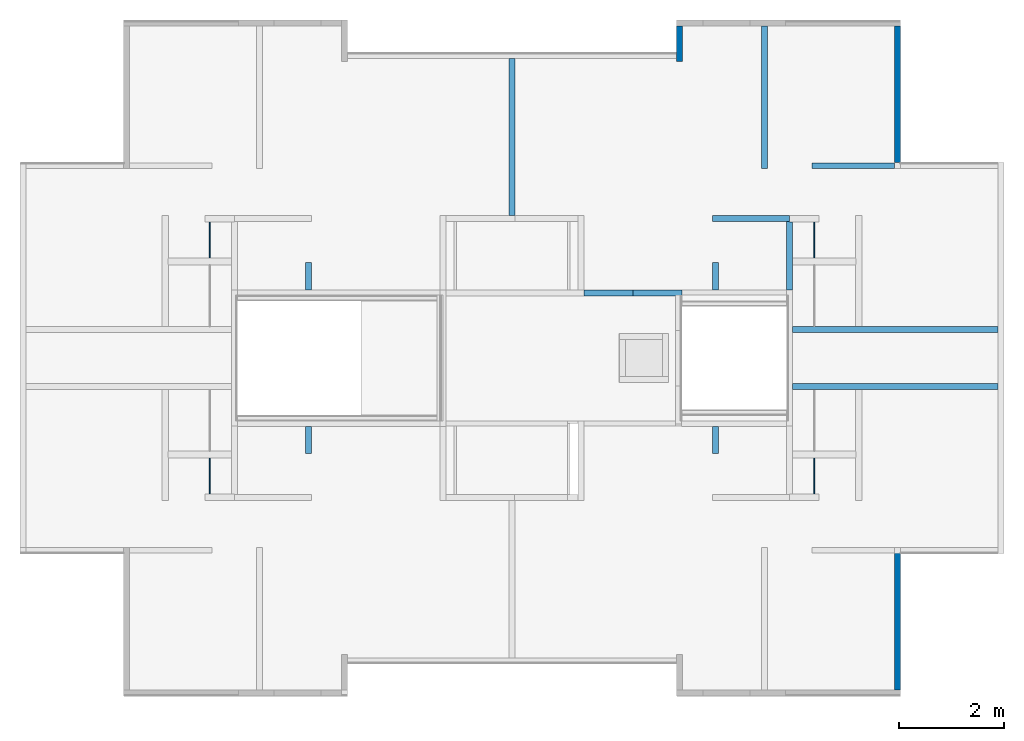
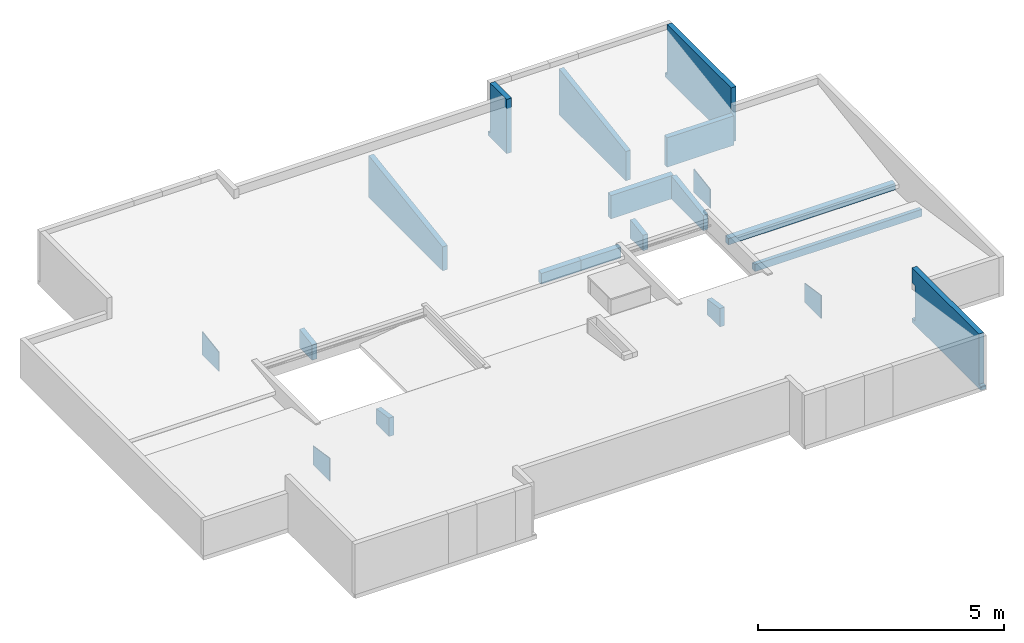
# One storey, part 6 of 9: 20 walls, 2 openings.
"""IFC4 building model written with IfcOpenShell, lengths in metres."""

from ifc_helpers import new_model, entity, si_unit, converted_unit, derived_unit, direction, frame, origin, place, context, subcontext, project, spatial, indexed_curve, outline, extrude, polygons, material, type_object, element, save


model = new_model("IFC4")

# Units and contexts
model_context = context("Model", 3, precision=1e-05, world=origin(), true_north=direction((6.123031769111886e-17, 1.0)))
body_context = subcontext(model_context, "Body", "Model", "MODEL_VIEW")
ifc_project = project(units=[si_unit("LENGTHUNIT", "METRE"), si_unit("AREAUNIT", "SQUARE_METRE"), si_unit("VOLUMEUNIT", "CUBIC_METRE"), converted_unit("PLANEANGLEUNIT", "DEGREE", entity("IfcRatioMeasure", 0.017453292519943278), si_unit("PLANEANGLEUNIT", "RADIAN"), dimensions=[0, 0, 0, 0, 0, 0, 0]), si_unit("MASSUNIT", "GRAM", prefix="KILO"), derived_unit("MASSDENSITYUNIT", [(si_unit("MASSUNIT", "GRAM", prefix="KILO"), 1), (si_unit("LENGTHUNIT", "METRE"), -3)]), derived_unit("IONCONCENTRATIONUNIT", [(si_unit("MASSUNIT", "GRAM", prefix="KILO"), 1), (si_unit("LENGTHUNIT", "METRE"), -3)]), derived_unit("MOMENTOFINERTIAUNIT", [(si_unit("LENGTHUNIT", "METRE"), 4)]), si_unit("TIMEUNIT", "SECOND"), si_unit("FREQUENCYUNIT", "HERTZ"), si_unit("THERMODYNAMICTEMPERATUREUNIT", "DEGREE_CELSIUS"), derived_unit("THERMALTRANSMITTANCEUNIT", [(si_unit("MASSUNIT", "GRAM", prefix="KILO"), 1), (si_unit("THERMODYNAMICTEMPERATUREUNIT", "KELVIN"), -1), (si_unit("TIMEUNIT", "SECOND"), -3)]), derived_unit("THERMALCONDUCTANCEUNIT", [(si_unit("MASSUNIT", "GRAM", prefix="KILO"), 1), (si_unit("THERMODYNAMICTEMPERATUREUNIT", "KELVIN"), -1), (si_unit("TIMEUNIT", "SECOND"), -3), (si_unit("LENGTHUNIT", "METRE"), 1)]), derived_unit("VOLUMETRICFLOWRATEUNIT", [(si_unit("LENGTHUNIT", "METRE"), 3), (si_unit("TIMEUNIT", "SECOND"), -1)]), derived_unit("MASSFLOWRATEUNIT", [(si_unit("MASSUNIT", "GRAM", prefix="KILO"), 1), (si_unit("TIMEUNIT", "SECOND"), -1)]), derived_unit("ROTATIONALFREQUENCYUNIT", [(si_unit("TIMEUNIT", "SECOND"), -1)]), si_unit("ELECTRICCURRENTUNIT", "AMPERE"), si_unit("ELECTRICVOLTAGEUNIT", "VOLT"), si_unit("POWERUNIT", "WATT"), si_unit("FORCEUNIT", "NEWTON", prefix="KILO"), si_unit("ILLUMINANCEUNIT", "LUX"), si_unit("LUMINOUSFLUXUNIT", "LUMEN"), si_unit("LUMINOUSINTENSITYUNIT", "CANDELA"), derived_unit("USERDEFINED", [(si_unit("MASSUNIT", "GRAM", prefix="KILO"), -1), (si_unit("LENGTHUNIT", "METRE"), -2), (si_unit("TIMEUNIT", "SECOND"), 3), (si_unit("LUMINOUSFLUXUNIT", "LUMEN"), 1)]), derived_unit("USERDEFINED", [(si_unit("MASSUNIT", "GRAM", prefix="KILO"), 1), (si_unit("TIMEUNIT", "SECOND"), -3), (si_unit("LENGTHUNIT", "METRE"), 3), (si_unit("ELECTRICCURRENTUNIT", "AMPERE"), -2)]), derived_unit("SOUNDPOWERUNIT", [(si_unit("MASSUNIT", "GRAM", prefix="KILO"), 1), (si_unit("TIMEUNIT", "SECOND"), -3), (si_unit("LENGTHUNIT", "METRE"), 2)]), derived_unit("SOUNDPRESSUREUNIT", [(si_unit("MASSUNIT", "GRAM", prefix="KILO"), 1), (si_unit("LENGTHUNIT", "METRE"), -1), (si_unit("TIMEUNIT", "SECOND"), -2)]), derived_unit("LINEARVELOCITYUNIT", [(si_unit("LENGTHUNIT", "METRE"), 1), (si_unit("TIMEUNIT", "SECOND"), -1)]), si_unit("PRESSUREUNIT", "PASCAL"), derived_unit("USERDEFINED", [(si_unit("MASSUNIT", "GRAM", prefix="KILO"), 1), (si_unit("LENGTHUNIT", "METRE"), -2), (si_unit("TIMEUNIT", "SECOND"), -2)]), derived_unit("LINEARFORCEUNIT", [(si_unit("MASSUNIT", "GRAM", prefix="KILO"), 1), (si_unit("TIMEUNIT", "SECOND"), -2)]), derived_unit("PLANARFORCEUNIT", [(si_unit("MASSUNIT", "GRAM", prefix="KILO"), 1), (si_unit("LENGTHUNIT", "METRE"), -1), (si_unit("TIMEUNIT", "SECOND"), -2)]), derived_unit("SPECIFICHEATCAPACITYUNIT", [(si_unit("THERMODYNAMICTEMPERATUREUNIT", "KELVIN"), -1), (si_unit("LENGTHUNIT", "METRE"), 2), (si_unit("TIMEUNIT", "SECOND"), -2)]), derived_unit("HEATINGVALUEUNIT", [(si_unit("LENGTHUNIT", "METRE"), 2), (si_unit("TIMEUNIT", "SECOND"), -2)]), derived_unit("VAPORPERMEABILITYUNIT", [(si_unit("LENGTHUNIT", "METRE"), -1), (si_unit("TIMEUNIT", "SECOND"), 1)]), derived_unit("DYNAMICVISCOSITYUNIT", [(si_unit("MASSUNIT", "GRAM", prefix="KILO"), 1), (si_unit("TIMEUNIT", "SECOND"), -1), (si_unit("LENGTHUNIT", "METRE"), -1)]), derived_unit("THERMALEXPANSIONCOEFFICIENTUNIT", [(si_unit("THERMODYNAMICTEMPERATUREUNIT", "KELVIN"), -1)]), derived_unit("MODULUSOFELASTICITYUNIT", [(si_unit("MASSUNIT", "GRAM", prefix="KILO"), 1), (si_unit("LENGTHUNIT", "METRE"), -1), (si_unit("TIMEUNIT", "SECOND"), -2)]), derived_unit("ISOTHERMALMOISTURECAPACITYUNIT", [(si_unit("LENGTHUNIT", "METRE"), 3), (si_unit("MASSUNIT", "GRAM", prefix="KILO"), -1)]), derived_unit("MOISTUREDIFFUSIVITYUNIT", [(si_unit("TIMEUNIT", "SECOND"), -1), (si_unit("LENGTHUNIT", "METRE"), 2)])], contexts=[model_context])

# Site, building, storey
site_placement = place(None, origin())
site = spatial("IfcSite", under=ifc_project, at=site_placement, Name="Default", CompositionType="ELEMENT")
building_placement = place(site_placement, origin())
building = spatial("IfcBuilding", under=site, at=building_placement, CompositionType="ELEMENT")
storey_placement = place(building_placement, frame((0.0, 0.0, 14.10000000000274)))
storey = spatial("IfcBuildingStorey", under=building, at=storey_placement, Name="Nivel 7", CompositionType="ELEMENT", Elevation=14.10000000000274)

# Wall
ifc_material_1 = material(Name="Concreto (Aire)", Category="Materials")
wall_type_1 = type_object("IfcWallType", Name="Basic Wall:B2010 - 0.12m - Muro interior en concreto", PredefinedType="STANDARD")
wall_1_placement = place(storey_placement, frame((9.322500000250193, -0.7100000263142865, -0.10000000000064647), z_axis=(0.0, 0.0, 1.0), x_axis=(0.0, -1.0, 0.0)))
element("IfcWall", 1, at=wall_1_placement, inside=storey, type_object=wall_type_1, material=ifc_material_1, Name="Basic Wall:B2010 - 0.12m - Muro interior en concreto", ObjectType="Basic Wall:B2010 - 0.12m - Muro interior en concreto", PredefinedType="NOTDEFINED", context=body_context, shape_type="Tessellation", body=[
    polygons([(3.383959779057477e-15, -0.05999999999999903, 0.0), (3.0000000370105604, -0.05999999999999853, 0.0), (3.0000000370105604, -0.05999999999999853, 0.5934499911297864), (1.0828671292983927e-15, -0.05999999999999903, 1.043449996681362), (3.383959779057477e-15, 0.06000000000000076, 0.0), (3.383959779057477e-15, 0.06000000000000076, 1.043449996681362), (3.00000003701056, 0.06000000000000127, 0.5934499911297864), (3.00000003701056, 0.06000000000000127, 0.0)], [[[1, 2, 3, 4]], [[5, 6, 7, 8]], [[2, 1, 5, 8]], [[3, 2, 8, 7]], [[1, 4, 6, 5]], [[4, 3, 7, 6]]], closed=True),
])

# Wall, opening
ifc_material_2 = material(Name="Ladrillo claro (Aire)", Category="Materials")
wall_type_2 = type_object("IfcWallType", Name="Basic Wall:B2010 - 0.115m - Muro exterior en mampostería - Ladrillo", PredefinedType="STANDARD")
wall_2_placement = place(storey_placement, frame((16.67000000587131, -2.695000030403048, -0.10000000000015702), z_axis=(0.0, 0.0, 1.0), x_axis=(0.0, 1.0, 0.0)))
wall_2 = element("IfcWall", 2, at=wall_2_placement, inside=storey, type_object=wall_type_2, material=ifc_material_2, Name="Basic Wall:B2010 - 0.115m - Muro exterior en mampostería - Ladrillo", ObjectType="Basic Wall:B2010 - 0.115m - Muro exterior en mampostería - Ladrillo", PredefinedType="NOTDEFINED", context=body_context, shape_type="Tessellation", body=[
    polygons([(0.0, -0.057500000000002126, -2.1657342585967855e-15), (2.685000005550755, -0.057499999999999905, -2.1657342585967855e-15), (2.685000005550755, -0.057499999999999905, 0.0999999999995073), (2.600000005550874, -0.057499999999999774, 0.0999999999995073), (2.6000000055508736, -0.057499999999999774, 1.3467999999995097), (0.0, -0.057500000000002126, 1.3467999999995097), (0.0, 0.057500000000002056, -2.1657342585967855e-15), (0.0, 0.05749999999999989, 0.09999999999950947), (0.0, 0.05749999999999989, 0.9757999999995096), (0.0, 0.057500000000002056, 1.3467999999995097), (2.6000000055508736, 0.05750000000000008, 1.3467999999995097), (2.6000000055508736, 0.05750000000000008, 0.0999999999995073), (2.685000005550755, 0.05749999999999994, 0.0999999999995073), (2.685000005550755, 0.05749999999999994, -2.1657342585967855e-15)], [[[1, 2, 3, 4, 5, 6]], [[7, 8, 9, 10, 11, 12, 13, 14]], [[1, 6, 10, 9, 8, 7]], [[2, 1, 7, 14]], [[5, 4, 12, 11]], [[6, 5, 11, 10]], [[3, 2, 14, 13]], [[4, 3, 13, 12]]], closed=True),
])
opening_1_placement = place(wall_2_placement, origin())
element("IfcOpeningElement", 3, at=opening_1_placement, cuts=wall_2, Name="Basic Wall:B2010 - 0.115m - Muro exterior en mampostería - Ladrillo", PredefinedType="OPENING", context=body_context, shape_type="SweptSolid", body=[
    extrude(outline(indexed_curve([(-0.6234000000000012, -0.042499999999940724), (0.6233999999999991, -0.04249999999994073), (0.6233999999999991, 0.04249999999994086), (-0.6234000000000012, 0.04249999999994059), (-0.6234000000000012, -0.042499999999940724)], self_intersect=False)), frame((2.642500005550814, 0.05750000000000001, 0.7233999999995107), z_axis=(0.0, -1.0, 0.0), x_axis=(0.0, 0.0, 1.0)), (0.0, 0.0, 1.0), 0.115),
])

# Wall
wall_3_placement = place(storey_placement, frame((16.670000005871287, -10.040000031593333, -0.10000000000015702), z_axis=(0.0, 0.0, 1.0), x_axis=(0.0, -1.0, 0.0)))
element("IfcWall", 4, at=wall_3_placement, inside=storey, type_object=wall_type_2, material=ifc_material_2, Name="Basic Wall:B2010 - 0.115m - Muro exterior en mampostería - Ladrillo", ObjectType="Basic Wall:B2010 - 0.115m - Muro exterior en mampostería - Ladrillo", PredefinedType="NOTDEFINED", context=body_context, shape_type="Tessellation", body=[
    polygons([(0.0, -0.05749999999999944, -2.1657342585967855e-15), (0.10000000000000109, -0.057499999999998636, 0.0), (2.799999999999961, -0.057499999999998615, -2.1657342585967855e-15), (2.799999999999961, -0.057499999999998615, 0.0999999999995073), (2.7149999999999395, -0.057499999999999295, 0.0999999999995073), (2.7149999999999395, -0.057499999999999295, 1.3467999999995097), (0.0, -0.05749999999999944, 1.3467999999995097), (0.0, -0.057499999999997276, 0.9757999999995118), (0.11499999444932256, -0.05749999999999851, 0.9757999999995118), (0.11499999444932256, -0.05749999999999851, 0.09999999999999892), (0.0, -0.05749999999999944, 0.09999999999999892), (0.0, 0.057500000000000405, -2.1657342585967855e-15), (0.0, 0.057500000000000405, 0.09999999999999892), (0.08499999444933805, 0.05750000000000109, 0.09999999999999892), (0.11499999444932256, 0.057500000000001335, 0.09999999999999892), (0.11499999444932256, 0.057500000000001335, 0.9757999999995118), (0.0, 0.05750000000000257, 0.9757999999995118), (0.0, 0.057500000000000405, 1.3467999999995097), (2.7149999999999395, 0.05750000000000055, 1.3467999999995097), (2.7149999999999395, 0.05750000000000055, 0.0999999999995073), (2.799999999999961, 0.05750000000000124, 0.0999999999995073), (2.799999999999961, 0.05750000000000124, -2.1657342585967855e-15), (0.11499999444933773, 0.057500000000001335, 0.0), (0.08499999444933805, 0.05750000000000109, 0.0)], [[[1, 2, 3, 4, 5, 6, 7, 8, 9, 10, 11]], [[12, 13, 14, 15, 16, 17, 18, 19, 20, 21, 22, 23, 24]], [[1, 11, 13, 12]], [[10, 9, 16, 15]], [[8, 7, 18, 17]], [[3, 2, 1, 12, 24, 23, 22]], [[6, 5, 20, 19]], [[7, 6, 19, 18]], [[10, 15, 14, 13, 11]], [[8, 17, 16, 9]], [[4, 3, 22, 21]], [[5, 4, 21, 20]]], closed=True),
])

# Wall, opening
wall_4_placement = place(storey_placement, frame((12.520000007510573, -0.010000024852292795, -0.09999999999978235), z_axis=(0.0, 0.0, 1.0), x_axis=(0.0, -1.0, 0.0)))
wall_4 = element("IfcWall", 5, at=wall_4_placement, inside=storey, type_object=wall_type_2, material=ifc_material_2, Name="Basic Wall:B2010 - 0.115m - Muro exterior en mampostería - Ladrillo", ObjectType="Basic Wall:B2010 - 0.115m - Muro exterior en mampostería - Ladrillo", PredefinedType="NOTDEFINED", context=body_context, shape_type="Tessellation", body=[
    polygons([(0.08500000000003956, -0.05750000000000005, 0.09999999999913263), (1.268984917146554e-17, -0.05749999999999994, 0.09999999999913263), (1.903477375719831e-17, -0.05749999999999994, 0.0), (0.5850000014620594, -0.05750000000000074, 0.0), (0.6150000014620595, -0.05750000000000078, 0.0), (0.7599180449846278, -0.057500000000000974, 0.0), (0.7599180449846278, -0.057500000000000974, 1.3467999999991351), (0.08500000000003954, -0.05750000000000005, 1.3467999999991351), (0.08500000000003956, 0.057499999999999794, 0.09999999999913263), (0.08500000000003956, 0.057499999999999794, 1.3467999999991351), (0.7599180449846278, 0.05749999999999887, 1.3467999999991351), (0.7599180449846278, 0.05749999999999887, 0.0), (6.34492458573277e-18, 0.057499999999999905, 0.0), (6.34492458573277e-18, 0.057499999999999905, 0.09999999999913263)], [[[1, 2, 3, 4, 5, 6, 7, 8]], [[9, 10, 11, 12, 13, 14]], [[6, 5, 4, 3, 13, 12]], [[7, 6, 12, 11]], [[8, 7, 11, 10]], [[1, 8, 10, 9]], [[2, 1, 9, 14]], [[3, 2, 14, 13]]], closed=True),
])
opening_2_placement = place(wall_4_placement, origin())
element("IfcOpeningElement", 6, at=opening_2_placement, cuts=wall_4, Name="Basic Wall:B2010 - 0.115m - Muro exterior en mampostería - Ladrillo", PredefinedType="OPENING", context=body_context, shape_type="SweptSolid", body=[
    extrude(outline(indexed_curve([(-0.04250000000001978, -0.6233999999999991), (0.04250000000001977, -0.6233999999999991), (0.04250000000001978, 0.6234000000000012), (-0.04250000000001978, 0.6234000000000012), (-0.04250000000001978, -0.6233999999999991)], self_intersect=False)), frame((0.042500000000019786, 0.05749999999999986, 0.7233999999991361), z_axis=(0.0, -1.0, 0.0), x_axis=(-1.0, 0.0, 0.0)), (0.0, 0.0, 1.0), 0.115),
])

# Walls
ifc_material_3 = material(Name="LADRILLO CLARO", Category="Materials")
wall_type_3 = type_object("IfcWallType", Name="Basic Wall:B2010 - 0.115m - ME mampostería no estructural - Ladrillo", PredefinedType="STANDARD")
wall_5_placement = place(storey_placement, frame((13.200000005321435, -8.24500002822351, -0.10000000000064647), z_axis=(0.0, 0.0, 1.0), x_axis=(0.0, 1.0, 0.0)))
element("IfcWall", 7, at=wall_5_placement, inside=storey, type_object=wall_type_3, material=ifc_material_3, Name="Basic Wall:B2010 - 0.115m - ME mampostería no estructural - Ladrillo", ObjectType="Basic Wall:B2010 - 0.115m - ME mampostería no estructural - Ladrillo", PredefinedType="NOTDEFINED", context=body_context, shape_type="Tessellation", body=[
    polygons([(0.0, -0.05749999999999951, 0.0), (0.5175000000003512, -0.057499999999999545, 0.0), (0.5195000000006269, -0.05749999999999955, 0.0), (0.5195000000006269, -0.05749999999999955, 0.381274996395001), (0.5175000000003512, -0.057499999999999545, 0.38157499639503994), (0.0, -0.05749999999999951, 0.45919999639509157), (0.0, 0.057500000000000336, 0.0), (0.0, 0.057500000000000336, 0.45919999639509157), (0.519500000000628, 0.057500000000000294, 0.381274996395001), (0.519500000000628, 0.057500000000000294, 0.0)], [[[1, 2, 3, 4, 5, 6]], [[7, 8, 9, 10]], [[3, 2, 1, 7, 10]], [[1, 6, 8, 7]], [[6, 5, 4, 9, 8]], [[4, 3, 10, 9]]], closed=True),
])
wall_type_4 = type_object("IfcWallType", Name="Basic Wall:B2010 - 0.115m - Muro interior en mampostería - Ladrillo", PredefinedType="STANDARD")
wall_6_placement = place(storey_placement, frame((14.135000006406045, -0.09500002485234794, -0.10000000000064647), z_axis=(0.0, 0.0, 1.0), x_axis=(0.0, -1.0, 0.0)))
element("IfcWall", 8, at=wall_6_placement, inside=storey, type_object=wall_type_4, material=ifc_material_2, Name="Basic Wall:B2010 - 0.115m - Muro interior en mampostería - Ladrillo", ObjectType="Basic Wall:B2010 - 0.115m - Muro interior en mampostería - Ladrillo", PredefinedType="NOTDEFINED", context=body_context, shape_type="Tessellation", body=[
    polygons([(0.0, -0.05749999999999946, 0.0), (2.7150000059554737, -0.05749999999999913, 0.0), (2.7150000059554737, -0.05749999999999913, 0.7284499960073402), (1.0417520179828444e-13, -0.05749999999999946, 1.135699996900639), (3.891553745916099e-16, 0.05750000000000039, 0.0), (5.414335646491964e-16, 0.05750000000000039, 1.135699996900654), (2.7150000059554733, 0.05750000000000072, 0.7284499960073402), (2.7150000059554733, 0.05750000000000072, 0.0)], [[[1, 2, 3, 4]], [[5, 6, 7, 8]], [[2, 1, 5, 8]], [[3, 2, 8, 7]], [[4, 3, 7, 6]], [[1, 4, 6, 5]]], closed=True),
])
wall_7_placement = place(storey_placement, frame((14.61500000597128, -3.7675000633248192, -0.10000000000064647), z_axis=(0.0, 0.0, 1.0), x_axis=(-1.0, 0.0, 0.0)))
element("IfcWall", 9, at=wall_7_placement, inside=storey, type_object=wall_type_4, material=ifc_material_2, Name="Basic Wall:B2010 - 0.115m - Muro interior en mampostería - Ladrillo", ObjectType="Basic Wall:B2010 - 0.115m - Muro interior en mampostería - Ladrillo", PredefinedType="NOTDEFINED", context=body_context, shape_type="Tessellation", body=[
    polygons([(3.921850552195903e-16, -0.057499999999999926, 0.0), (1.4724999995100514, -0.057499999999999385, 0.0), (1.4724999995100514, -0.057499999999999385, 0.5934499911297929), (3.921850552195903e-16, -0.057499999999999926, 0.5934499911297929), (1.5501947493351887e-18, 0.057499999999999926, 0.0), (1.5501947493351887e-18, 0.057499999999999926, 0.5761999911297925), (0.057499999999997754, 0.05750000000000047, 0.5761999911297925), (1.4724999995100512, 0.05750000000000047, 0.5761999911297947), (1.4724999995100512, 0.05750000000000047, 0.0), (0.057499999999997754, 0.05750000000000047, 0.0)], [[[1, 2, 3, 4]], [[5, 6, 7, 8, 9, 10]], [[2, 1, 5, 10, 9]], [[3, 2, 9, 8]], [[1, 4, 6, 5]], [[4, 3, 8, 7, 6]]], closed=True),
])
wall_type_5 = type_object("IfcWallType", Name="Basic Wall:B2010 - 0.10m - Muro interior en concreto", PredefinedType="STANDARD")
wall_8_placement = place(storey_placement, frame((16.612500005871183, -2.760000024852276, -0.10000000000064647), z_axis=(0.0, 0.0, 1.0), x_axis=(-1.0, 0.0, 0.0)))
element("IfcWall", 10, at=wall_8_placement, inside=storey, type_object=wall_type_5, material=ifc_material_1, Name="Basic Wall:B2010 - 0.10m - Muro interior en concreto", ObjectType="Basic Wall:B2010 - 0.10m - Muro interior en concreto", PredefinedType="NOTDEFINED", context=body_context, shape_type="Tessellation", body=[
    polygons([(-2.517492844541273e-16, -0.05, 0.0), (1.569999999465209, -0.05, 0.0), (1.569999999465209, -0.05, 0.7434499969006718), (7.495681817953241e-09, -0.05, 0.7434499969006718), (5.862664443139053e-17, 0.05, 0.0), (5.862664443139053e-17, 0.05, 0.728449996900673), (1.5699999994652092, 0.05, 0.7284499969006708), (1.5699999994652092, 0.05, 0.0)], [[[1, 2, 3, 4]], [[5, 6, 7, 8]], [[2, 1, 5, 8]], [[3, 2, 8, 7]], [[1, 4, 6, 5]], [[4, 3, 7, 6]]], closed=True),
])
wall_type_6 = type_object("IfcWallType", Name="Basic Wall:B2010 - 0.115m - MI mampostería no estructural - Ladrillo", PredefinedType="STANDARD")
wall_9_placement = place(storey_placement, frame((5.444999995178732, -4.605000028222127, -0.10000000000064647), z_axis=(0.0, 0.0, 1.0), x_axis=(0.0, -1.0, 0.0)))
element("IfcWall", 11, at=wall_9_placement, inside=storey, type_object=wall_type_6, material=ifc_material_3, Name="Basic Wall:B2010 - 0.115m - MI mampostería no estructural - Ladrillo", ObjectType="Basic Wall:B2010 - 0.115m - MI mampostería no estructural - Ladrillo", PredefinedType="NOTDEFINED", context=body_context, shape_type="Tessellation", body=[
    polygons([(0.0, -0.057500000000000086, 0.0), (0.5195000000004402, -0.05749999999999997, 0.0), (0.5195000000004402, -0.05749999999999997, 0.3812749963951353), (0.0, -0.057500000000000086, 0.4591999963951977), (-5.414335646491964e-16, 0.05749999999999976, 0.0), (-5.414335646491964e-16, 0.05749999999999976, 0.4591999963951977), (0.5195000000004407, 0.05749999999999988, 0.3812749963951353), (0.5195000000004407, 0.05749999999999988, 0.0)], [[[1, 2, 3, 4]], [[5, 6, 7, 8]], [[2, 1, 5, 8]], [[1, 4, 6, 5]], [[3, 2, 8, 7]], [[4, 3, 7, 6]]], closed=True),
])
wall_10_placement = place(storey_placement, frame((14.615000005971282, -3.825000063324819, -0.10000000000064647), z_axis=(0.0, 0.0, 1.0), x_axis=(0.0, -1.0, 0.0)))
element("IfcWall", 12, at=wall_10_placement, inside=storey, type_object=wall_type_6, material=ifc_material_3, Name="Basic Wall:B2010 - 0.115m - MI mampostería no estructural - Ladrillo", ObjectType="Basic Wall:B2010 - 0.115m - MI mampostería no estructural - Ladrillo", PredefinedType="NOTDEFINED", context=body_context, shape_type="Tessellation", body=[
    polygons([(-5.414335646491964e-16, -0.057500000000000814, 0.0), (1.2999999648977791, -0.05750000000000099, 0.0), (1.2999999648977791, -0.05750000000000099, 0.3811999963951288), (-5.414335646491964e-16, -0.057500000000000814, 0.5761999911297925), (0.01000000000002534, 0.05749999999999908, 0.0), (0.01000000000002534, 0.05749999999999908, 0.5746999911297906), (0.6900000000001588, 0.05749999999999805, 0.47269999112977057), (0.8250000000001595, 0.05749999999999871, 0.45244999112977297), (1.2999999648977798, 0.05749999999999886, 0.3811999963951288), (1.2999999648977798, 0.05749999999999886, 0.0), (0.8250000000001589, 0.05749999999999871, 0.0), (0.6900000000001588, 0.05749999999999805, 0.0), (0.0, -3.058092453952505e-15, 0.0), (0.01000000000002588, -8.437327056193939e-16, 0.0), (0.0, -3.058092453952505e-15, 0.5761999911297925), (0.01000000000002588, -3.0094669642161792e-15, 0.5746999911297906)], [[[1, 2, 3, 4]], [[5, 6, 7, 8, 9, 10, 11, 12]], [[2, 1, 13, 14, 5, 12, 11, 10]], [[3, 2, 10, 9]], [[1, 4, 15, 13]], [[15, 16, 14, 13]], [[16, 6, 5, 14]], [[4, 3, 9, 8, 7, 6, 16, 15]]], closed=True),
])
wall_11_placement = place(storey_placement, frame((13.200000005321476, -4.605000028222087, -0.10000000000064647), z_axis=(0.0, 0.0, 1.0), x_axis=(0.0, -1.0, 0.0)))
element("IfcWall", 13, at=wall_11_placement, inside=storey, type_object=wall_type_6, material=ifc_material_3, Name="Basic Wall:B2010 - 0.115m - MI mampostería no estructural - Ladrillo", ObjectType="Basic Wall:B2010 - 0.115m - MI mampostería no estructural - Ladrillo", PredefinedType="NOTDEFINED", context=body_context, shape_type="Tessellation", body=[
    polygons([(5.414335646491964e-16, -0.057499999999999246, 0.0), (0.5195000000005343, -0.05749999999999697, 0.0), (0.5195000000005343, -0.05749999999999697, 0.38127499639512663), (5.414335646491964e-16, -0.057499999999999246, 0.4591999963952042), (5.414335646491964e-16, 0.0575000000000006, 0.0), (5.414335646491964e-16, 0.0575000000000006, 0.4591999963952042), (0.5195000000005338, 0.057499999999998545, 0.38127499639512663), (0.5195000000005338, 0.057499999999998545, 0.0)], [[[1, 2, 3, 4]], [[5, 6, 7, 8]], [[2, 1, 5, 8]], [[1, 4, 6, 5]], [[3, 2, 8, 7]], [[4, 3, 7, 6]]], closed=True),
])
wall_12_placement = place(storey_placement, frame((5.444999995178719, -8.245000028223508, -0.10000000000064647), z_axis=(0.0, 0.0, 1.0), x_axis=(0.0, 1.0, 0.0)))
element("IfcWall", 14, at=wall_12_placement, inside=storey, type_object=wall_type_6, material=ifc_material_3, Name="Basic Wall:B2010 - 0.115m - MI mampostería no estructural - Ladrillo", ObjectType="Basic Wall:B2010 - 0.115m - MI mampostería no estructural - Ladrillo", PredefinedType="NOTDEFINED", context=body_context, shape_type="Tessellation", body=[
    polygons([(1.0828671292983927e-15, -0.05750000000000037, 0.0), (0.519000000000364, -0.05750000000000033, 0.0), (0.519000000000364, -0.05750000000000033, 0.38134999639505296), (1.0828671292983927e-15, -0.05750000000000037, 0.4591999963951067), (0.0, 0.057499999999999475, 0.0), (0.0, 0.057499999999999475, 0.4591999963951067), (0.519000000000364, 0.05749999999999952, 0.38134999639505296), (0.519000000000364, 0.05749999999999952, 0.0)], [[[1, 2, 3, 4]], [[5, 6, 7, 8]], [[2, 1, 5, 8]], [[1, 4, 6, 5]], [[3, 2, 8, 7]], [[4, 3, 7, 6]]], closed=True),
])
ifc_material_4 = material(Name="Plasterboard", Category="Materials")
wall_type_7 = type_object("IfcWallType", Name="Basic Wall:C1070 - 0.02m - Plafón - Drywall", PredefinedType="STANDARD")
wall_13_placement = place(storey_placement, frame((3.562499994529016, -4.515000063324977, -0.10000000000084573), z_axis=(0.0, 0.0, 1.0), x_axis=(0.0, 1.0, 0.0)))
element("IfcWall", 15, at=wall_13_placement, inside=storey, type_object=wall_type_7, material=ifc_material_4, Name="Basic Wall:C1070 - 0.02m - Plafón - Drywall", ObjectType="Basic Wall:C1070 - 0.02m - Plafón - Drywall", PredefinedType="NOTDEFINED", context=body_context, shape_type="Tessellation", body=[
    polygons([(0.0, -0.009999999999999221, 0.0), (0.6800000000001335, -0.009999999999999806, 0.0), (0.6800000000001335, -0.009999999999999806, 0.5746999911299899), (0.0, -0.009999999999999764, 0.47269999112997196), (0.0, 0.010000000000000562, 0.0), (0.0, 0.010000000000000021, 0.47269999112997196), (0.680000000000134, 0.00999999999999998, 0.5746999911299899), (0.6800000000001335, 0.00999999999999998, 0.0)], [[[1, 2, 3, 4]], [[5, 6, 7, 8]], [[2, 1, 5, 8]], [[3, 2, 8, 7]], [[4, 3, 7, 6]], [[1, 4, 6, 5]]], closed=True),
])
wall_14_placement = place(storey_placement, frame((15.082500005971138, -4.515000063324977, -0.10000000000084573), z_axis=(0.0, 0.0, 1.0), x_axis=(0.0, 1.0, 0.0)))
element("IfcWall", 16, at=wall_14_placement, inside=storey, type_object=wall_type_7, material=ifc_material_4, Name="Basic Wall:C1070 - 0.02m - Plafón - Drywall", ObjectType="Basic Wall:C1070 - 0.02m - Plafón - Drywall", PredefinedType="NOTDEFINED", context=body_context, shape_type="Tessellation", body=[
    polygons([(5.414335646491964e-16, -0.00999999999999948, 0.0), (0.6800000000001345, -0.01000000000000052, 0.0), (0.680000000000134, -0.01000000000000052, 0.5746999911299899), (5.414335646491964e-16, -0.00999999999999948, 0.47269999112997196), (5.414335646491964e-16, 0.009999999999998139, 0.0), (5.414335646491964e-16, 0.009999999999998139, 0.4726999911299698), (0.680000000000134, 0.009999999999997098, 0.5746999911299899), (0.680000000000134, 0.009999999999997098, 0.0)], [[[1, 2, 3, 4]], [[5, 6, 7, 8]], [[2, 1, 5, 8]], [[3, 2, 8, 7]], [[1, 4, 6, 5]], [[4, 3, 7, 6]]], closed=True),
])
wall_15_placement = place(storey_placement, frame((3.562499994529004, -8.334999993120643, -0.10000000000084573), z_axis=(0.0, 0.0, 1.0), x_axis=(0.0, -1.0, 0.0)))
element("IfcWall", 17, at=wall_15_placement, inside=storey, type_object=wall_type_7, material=ifc_material_4, Name="Basic Wall:C1070 - 0.02m - Plafón - Drywall", ObjectType="Basic Wall:C1070 - 0.02m - Plafón - Drywall", PredefinedType="NOTDEFINED", context=body_context, shape_type="Tessellation", body=[
    polygons([(0.0, -0.00999999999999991, 0.0), (0.6800000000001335, -0.009999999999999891, 0.0), (0.6800000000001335, -0.009999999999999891, 0.5746999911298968), (0.0, -0.00999999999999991, 0.4726999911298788), (0.0, 0.009999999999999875, 0.0), (0.0, 0.009999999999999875, 0.4726999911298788), (0.6800000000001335, 0.009999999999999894, 0.5746999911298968), (0.6800000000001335, 0.009999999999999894, 0.0)], [[[1, 2, 3, 4]], [[5, 6, 7, 8]], [[2, 1, 5, 8]], [[3, 2, 8, 7]], [[4, 3, 7, 6]], [[1, 4, 6, 5]]], closed=True),
])
wall_16_placement = place(storey_placement, frame((15.08250000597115, -8.334999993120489, -0.10000000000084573), z_axis=(0.0, 0.0, 1.0), x_axis=(0.0, -1.0, 0.0)))
element("IfcWall", 18, at=wall_16_placement, inside=storey, type_object=wall_type_7, material=ifc_material_4, Name="Basic Wall:C1070 - 0.02m - Plafón - Drywall", ObjectType="Basic Wall:C1070 - 0.02m - Plafón - Drywall", PredefinedType="NOTDEFINED", context=body_context, shape_type="Tessellation", body=[
    polygons([(1.0828671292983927e-15, -0.010000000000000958, 0.0), (0.6800000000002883, -0.010000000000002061, 0.0), (0.6800000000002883, -0.010000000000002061, 0.574699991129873), (1.0828671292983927e-15, -0.010000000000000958, 0.47269999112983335), (1.0828671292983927e-15, 0.010000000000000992, 0.0), (1.0828671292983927e-15, 0.010000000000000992, 0.47269999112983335), (0.6800000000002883, 0.009999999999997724, 0.574699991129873), (0.6800000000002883, 0.009999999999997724, 0.0)], [[[1, 2, 3, 4]], [[5, 6, 7, 8]], [[2, 1, 5, 8]], [[3, 2, 8, 7]], [[1, 4, 6, 5]], [[4, 3, 7, 6]]], closed=True),
])
ifc_material_5 = material(Name="Concreto - Fundido in situ", Category="Materials")
wall_type_8 = type_object("IfcWallType", Name="Basic Wall:B2010 - 0.115m - MI No estructural- Concreto", PredefinedType="STANDARD")
wall_17_placement = place(storey_placement, frame((14.672500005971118, -5.882500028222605, 0.0)))
element("IfcWall", 19, at=wall_17_placement, inside=storey, type_object=wall_type_8, material=ifc_material_5, Name="Basic Wall:B2010 - 0.115m - MI No estructural- Concreto", ObjectType="Basic Wall:B2010 - 0.115m - MI No estructural- Concreto", PredefinedType="NOTDEFINED", context=body_context, shape_type="Tessellation", body=[
    polygons([(0.0, -0.057499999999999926, -2.1657342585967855e-15), (3.9149999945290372, -0.057499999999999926, -2.1657342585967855e-15), (3.9149999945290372, -0.057499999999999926, 0.1589499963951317), (0.0, -0.057499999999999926, 0.1589499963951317), (0.0, 0.057499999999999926, -2.1657342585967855e-15), (0.0, 0.057499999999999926, 0.1761999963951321), (3.9149999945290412, 0.057499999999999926, 0.1761999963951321), (3.9149999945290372, 0.057499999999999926, -2.1657342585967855e-15)], [[[1, 2, 3, 4]], [[5, 6, 7, 8]], [[2, 1, 5, 8]], [[1, 4, 6, 5]], [[4, 3, 7, 6]], [[3, 2, 8, 7]]], closed=True),
])
wall_18_placement = place(storey_placement, frame((18.587500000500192, -6.967500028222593, 0.0), z_axis=(0.0, 0.0, 1.0), x_axis=(-1.0, 0.0, 0.0)))
element("IfcWall", 20, at=wall_18_placement, inside=storey, type_object=wall_type_8, material=ifc_material_5, Name="Basic Wall:B2010 - 0.115m - MI No estructural- Concreto", ObjectType="Basic Wall:B2010 - 0.115m - MI No estructural- Concreto", PredefinedType="NOTDEFINED", context=body_context, shape_type="Tessellation", body=[
    polygons([(3.6817482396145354e-14, -0.057499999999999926, -2.1657342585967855e-15), (3.914999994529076, -0.057499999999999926, -2.1657342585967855e-15), (3.914999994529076, -0.057499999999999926, 0.1589499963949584), (1.2994405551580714e-14, -0.057499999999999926, 0.15894999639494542), (3.6817482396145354e-14, 0.057499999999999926, -2.1657342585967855e-15), (3.6817482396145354e-14, 0.057499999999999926, 0.17619999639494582), (3.9149999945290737, 0.057499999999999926, 0.17619999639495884), (3.914999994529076, 0.057499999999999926, -2.1657342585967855e-15)], [[[1, 2, 3, 4]], [[5, 6, 7, 8]], [[2, 1, 5, 8]], [[3, 2, 8, 7]], [[4, 3, 7, 6]], [[1, 4, 6, 5]]], closed=True),
])
wall_type_9 = type_object("IfcWallType", Name="Basic Wall:B2010 - 0.115m - Muro interior en concreto", PredefinedType="STANDARD")
wall_19_placement = place(storey_placement, frame((12.562500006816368, -5.182500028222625, 0.0), z_axis=(0.0, 0.0, 1.0), x_axis=(-1.0, 0.0, 0.0)))
element("IfcWall", 21, at=wall_19_placement, inside=storey, type_object=wall_type_9, material=ifc_material_1, Name="Basic Wall:B2010 - 0.115m - Muro interior en concreto", ObjectType="Basic Wall:B2010 - 0.115m - Muro interior en concreto", PredefinedType="NOTDEFINED", context=body_context, shape_type="Tessellation", body=[
    polygons([(2.7304379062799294e-16, -0.057499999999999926, -2.1657342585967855e-15), (0.9349999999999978, -0.057499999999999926, -2.1657342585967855e-15), (0.9349999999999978, -0.057499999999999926, 0.2811999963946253), (2.7304379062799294e-16, -0.057499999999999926, 0.2811999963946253), (-1.2411154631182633e-17, 0.057499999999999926, -2.1657342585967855e-15), (-1.2411154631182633e-17, 0.057499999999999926, 0.26394999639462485), (0.0050000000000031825, 0.057499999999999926, 0.26394999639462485), (0.11999999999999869, 0.057499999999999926, 0.26394999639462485), (0.9349999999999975, 0.057499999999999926, 0.26394999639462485), (0.9349999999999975, 0.057499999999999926, -2.1657342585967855e-15), (0.11999999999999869, 0.057499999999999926, 0.0), (0.004999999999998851, 0.057499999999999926, 0.0)], [[[1, 2, 3, 4]], [[5, 6, 7, 8, 9, 10, 11, 12]], [[2, 1, 5, 12, 11, 10]], [[3, 2, 10, 9]], [[1, 4, 6, 5]], [[4, 3, 9, 8, 7, 6]]], closed=True),
])
wall_20_placement = place(storey_placement, frame((10.692499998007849, -5.182500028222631, 0.0)))
element("IfcWall", 22, at=wall_20_placement, inside=storey, type_object=wall_type_9, material=ifc_material_1, Name="Basic Wall:B2010 - 0.115m - Muro interior en concreto", ObjectType="Basic Wall:B2010 - 0.115m - Muro interior en concreto", PredefinedType="NOTDEFINED", context=body_context, shape_type="Tessellation", body=[
    polygons([(-8.801913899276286e-16, -0.057499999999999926, -2.1657342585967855e-15), (0.9350000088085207, -0.057499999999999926, -2.1657342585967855e-15), (0.9350000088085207, -0.057499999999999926, 0.2639499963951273), (-8.801913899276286e-16, -0.057499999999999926, 0.2639499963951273), (-4.806307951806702e-16, 0.057499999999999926, -2.1657342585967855e-15), (-4.806307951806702e-16, 0.057499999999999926, 0.28119999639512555), (0.9350000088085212, 0.057499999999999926, 0.2811999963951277), (0.9350000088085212, 0.057499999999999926, -2.1657342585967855e-15)], [[[1, 2, 3, 4]], [[5, 6, 7, 8]], [[2, 1, 5, 8]], [[3, 2, 8, 7]], [[1, 4, 6, 5]], [[4, 3, 7, 6]]], closed=True),
])

save(model, "model.ifc")
